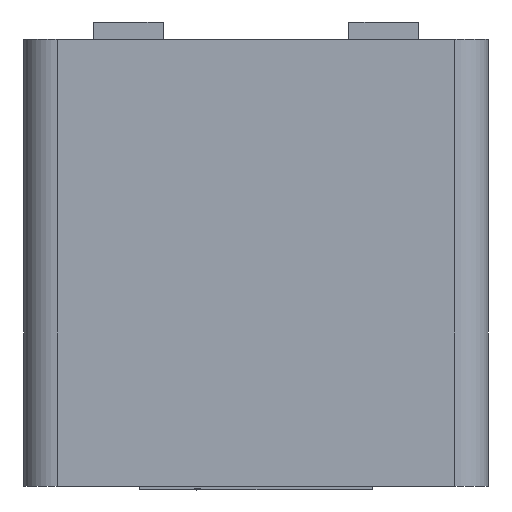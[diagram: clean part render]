
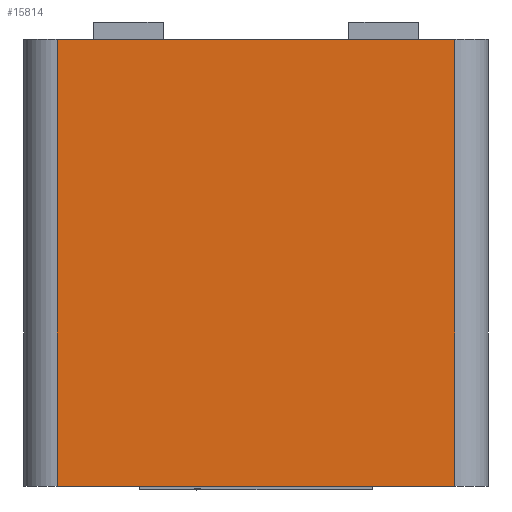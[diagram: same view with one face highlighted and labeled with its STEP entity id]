
A CAD part, left-side view. The second image highlights one B-rep face of the part: STEP entity #15814.
In plain terms, the highlighted planar face has unit normal (-1, 0, 0).
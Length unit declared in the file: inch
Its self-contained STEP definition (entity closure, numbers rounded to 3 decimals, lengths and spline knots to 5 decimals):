
#1873 = LINE ( 'NONE', #24298, #16061 ) ;
#2472 = EDGE_LOOP ( 'NONE', ( #14142, #7030, #22527, #11886 ) ) ;
#2955 = CARTESIAN_POINT ( 'NONE',  ( -2.25, 0.625, -0.6015 ) ) ;
#3298 = EDGE_CURVE ( 'NONE', #23073, #5100, #21859, .T. ) ;
#3530 = CARTESIAN_POINT ( 'NONE',  ( -2.25, -0.535, 0.6015 ) ) ;
#3790 = PLANE ( 'NONE',  #9871 ) ;
#5100 = VERTEX_POINT ( 'NONE', #11358 ) ;
#5534 = DIRECTION ( 'NONE',  ( 1., 0., 0. ) ) ;
#6051 = DIRECTION ( 'NONE',  ( 0., -1., 0. ) ) ;
#7030 = ORIENTED_EDGE ( 'NONE', *, *, #3298, .T. ) ;
#7160 = CARTESIAN_POINT ( 'NONE',  ( -2.25, -0.535, -0.6015 ) ) ;
#7218 = VERTEX_POINT ( 'NONE', #7160 ) ;
#8736 = VECTOR ( 'NONE', #25166, 39.37008 ) ;
#9622 = DIRECTION ( 'NONE',  ( 0., 1., 0. ) ) ;
#9668 = LINE ( 'NONE', #11435, #10608 ) ;
#9871 = AXIS2_PLACEMENT_3D ( 'NONE', #17837, #5534, #9622 ) ;
#10137 = VECTOR ( 'NONE', #13803, 39.37008 ) ;
#10608 = VECTOR ( 'NONE', #23884, 39.37008 ) ;
#11020 = FACE_OUTER_BOUND ( 'NONE', #2472, .T. ) ;
#11358 = CARTESIAN_POINT ( 'NONE',  ( -2.25, 0.535, -0.6015 ) ) ;
#11435 = CARTESIAN_POINT ( 'NONE',  ( -2.25, -0.535, 0.6015 ) ) ;
#11886 = ORIENTED_EDGE ( 'NONE', *, *, #24721, .T. ) ;
#12577 = LINE ( 'NONE', #2955, #8736 ) ;
#12652 = CARTESIAN_POINT ( 'NONE',  ( -2.25, 0.535, 0.6015 ) ) ;
#13546 = CARTESIAN_POINT ( 'NONE',  ( -2.25, 0.535, 0.6015 ) ) ;
#13803 = DIRECTION ( 'NONE',  ( 0., 0., -1. ) ) ;
#14142 = ORIENTED_EDGE ( 'NONE', *, *, #15967, .F. ) ;
#15814 = ADVANCED_FACE ( 'NONE', ( #11020 ), #3790, .F. ) ;
#15967 = EDGE_CURVE ( 'NONE', #23073, #24627, #1873, .T. ) ;
#16061 = VECTOR ( 'NONE', #6051, 39.37008 ) ;
#17035 = EDGE_CURVE ( 'NONE', #5100, #7218, #12577, .T. ) ;
#17837 = CARTESIAN_POINT ( 'NONE',  ( -2.25, 0.625, 0.6015 ) ) ;
#21859 = LINE ( 'NONE', #13546, #10137 ) ;
#22527 = ORIENTED_EDGE ( 'NONE', *, *, #17035, .T. ) ;
#23073 = VERTEX_POINT ( 'NONE', #12652 ) ;
#23884 = DIRECTION ( 'NONE',  ( 0., 0., 1. ) ) ;
#24298 = CARTESIAN_POINT ( 'NONE',  ( -2.25, 0.625, 0.6015 ) ) ;
#24627 = VERTEX_POINT ( 'NONE', #3530 ) ;
#24721 = EDGE_CURVE ( 'NONE', #7218, #24627, #9668, .T. ) ;
#25166 = DIRECTION ( 'NONE',  ( 0., -1., 0. ) ) ;
